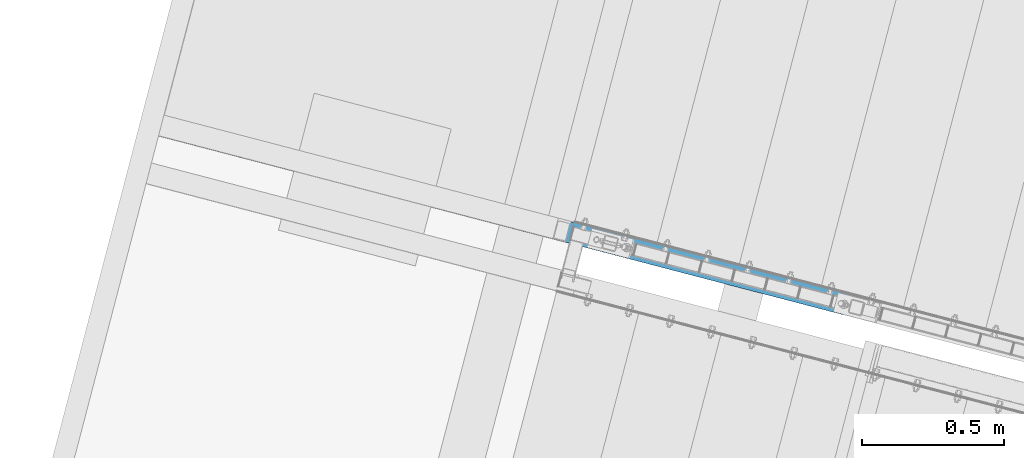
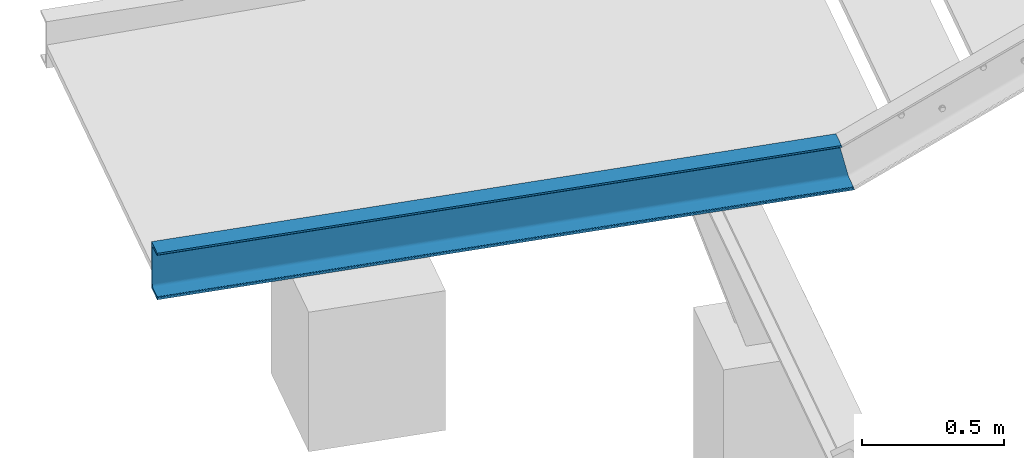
# One storey, part 40 of 169: 1 discrete accessory, 1 element without a shape of its own.
"""IFC2X3 building model written with IfcOpenShell, lengths in millimetres."""

from ifc_helpers import new_model, si_unit, frame, origin_with_axes, origin_2d_with_axis, place, context, subcontext, project, spatial, u_section, extrude, clip, halfspace, material, type_object, element, aggregate, save


model = new_model("IFC2X3")

# Units and contexts
model_context = context("Model", 3, precision=1e-05, world=origin_with_axes())
body_context = subcontext(model_context, "Body", "Model", "MODEL_VIEW")
ifc_project = project(units=[si_unit("LENGTHUNIT", "METRE", prefix="MILLI"), si_unit("AREAUNIT", "SQUARE_METRE"), si_unit("VOLUMEUNIT", "CUBIC_METRE"), si_unit("MASSUNIT", "GRAM", prefix="KILO"), si_unit("TIMEUNIT", "SECOND"), si_unit("PLANEANGLEUNIT", "RADIAN"), si_unit("SOLIDANGLEUNIT", "STERADIAN"), si_unit("THERMODYNAMICTEMPERATUREUNIT", "DEGREE_CELSIUS"), si_unit("LUMINOUSINTENSITYUNIT", "LUMEN")], contexts=[model_context])

# Site, building, storey
site_placement = place(None, origin_with_axes())
site = spatial("IfcSite", under=ifc_project, at=site_placement, Name="Undefined", CompositionType="ELEMENT")
building_placement = place(site_placement, origin_with_axes())
building = spatial("IfcBuilding", under=site, at=building_placement, Name="Undefined", CompositionType="ELEMENT")
storey_placement = place(building_placement, origin_with_axes())
storey = spatial("IfcBuildingStorey", under=building, at=storey_placement, Name="Undefined", CompositionType="ELEMENT", Elevation=0.0)

# Assembly, discrete accessory
assembly_placement = place(storey_placement, origin_with_axes())
assembly = element("IfcElementAssembly", 1, at=assembly_placement, inside=storey, Name="Steel Assembly", AssemblyPlace="NOTDEFINED", PredefinedType="RIGID_FRAME")
ifc_material = material(Name="STEEL/S235")
discrete_accessory_type = type_object("IfcDiscreteAccessoryType", Name="BELKA")
discrete_accessory_placement = place(assembly_placement, frame((-29380.6193682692, 7751.14582952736, 2880.09587438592), z_axis=(0.0, 0.0, 1.0), x_axis=(0.967580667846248, -0.252562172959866, 0.0)))
discrete_accessory = element("IfcDiscreteAccessory", 2, at=discrete_accessory_placement, type_object=discrete_accessory_type, material=ifc_material, Name="BELKA", ObjectType="UPN200", context=body_context, shape_type="Clipping", body=[
    clip(extrude(u_section(Depth=200.0, FlangeWidth=75.0, WebThickness=8.5, FlangeThickness=11.5, FilletRadius=11.5, EdgeRadius=6.0, at=origin_2d_with_axis()), frame((2584.47236675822, 8.59443729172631e-14, -9.09494701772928e-13), z_axis=(-1.0, -3.46944695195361e-18, -1.38777878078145e-17), x_axis=(1.73472347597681e-18, -1.0, 0.0)), (0.0, 0.0, 1.0), 2584.47), halfspace(frame((2500.00000123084, -3.93441027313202e-07, 100.000000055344), z_axis=(-0.973248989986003, -3.54065919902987e-15, -0.229752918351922), x_axis=(1.73472347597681e-18, -1.0, 0.0)), True)),
])
aggregate(assembly, [discrete_accessory])

save(model, "model.ifc")
